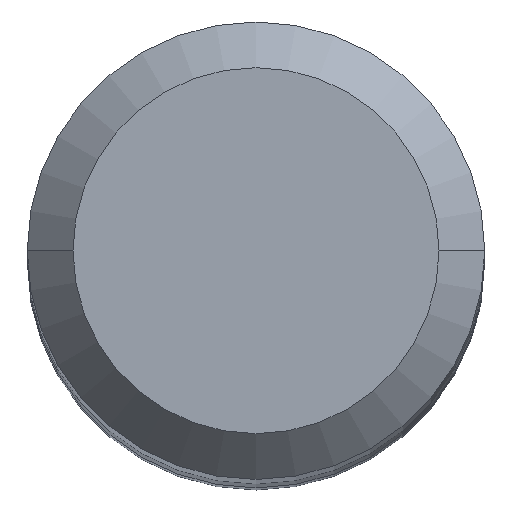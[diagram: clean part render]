
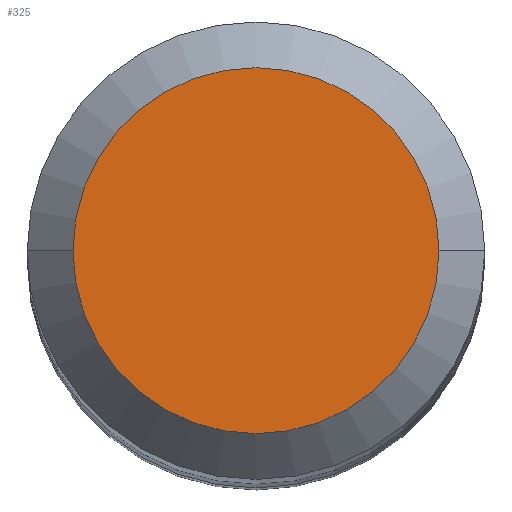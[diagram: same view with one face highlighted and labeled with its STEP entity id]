
A CAD part, top view. The second image highlights one B-rep face of the part: STEP entity #325.
In plain terms, the highlighted planar face has unit normal (0, 0, 1).
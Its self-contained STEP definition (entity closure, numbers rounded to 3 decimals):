
#1 = DIRECTION ( 'NONE',  ( -1., 0., 0. ) ) ;
#5 = ORIENTED_EDGE ( 'NONE', *, *, #430, .F. ) ;
#41 = AXIS2_PLACEMENT_3D ( 'NONE', #146, #283, #1 ) ;
#46 = DIRECTION ( 'NONE',  ( 0., 0., -1. ) ) ;
#89 = CARTESIAN_POINT ( 'NONE',  ( -3.2, 0., 0. ) ) ;
#94 = DIRECTION ( 'NONE',  ( -1., 0., 0. ) ) ;
#119 = EDGE_LOOP ( 'NONE', ( #5, #301 ) ) ;
#146 = CARTESIAN_POINT ( 'NONE',  ( 0., 0., 0. ) ) ;
#158 = VERTEX_POINT ( 'NONE', #89 ) ;
#163 = AXIS2_PLACEMENT_3D ( 'NONE', #419, #46, #94 ) ;
#179 = FACE_OUTER_BOUND ( 'NONE', #119, .T. ) ;
#219 = CIRCLE ( 'NONE', #41, 3.2 ) ;
#268 = DIRECTION ( 'NONE',  ( 0., 0., 1. ) ) ;
#283 = DIRECTION ( 'NONE',  ( 0., 0., -1. ) ) ;
#301 = ORIENTED_EDGE ( 'NONE', *, *, #307, .F. ) ;
#307 = EDGE_CURVE ( 'NONE', #476, #158, #442, .T. ) ;
#325 = ADVANCED_FACE ( 'NONE', ( #179 ), #558, .T. ) ;
#380 = CARTESIAN_POINT ( 'NONE',  ( 0., 3.2, 0. ) ) ;
#417 = AXIS2_PLACEMENT_3D ( 'NONE', #380, #268, #471 ) ;
#419 = CARTESIAN_POINT ( 'NONE',  ( 0., 0., 0. ) ) ;
#430 = EDGE_CURVE ( 'NONE', #158, #476, #219, .T. ) ;
#440 = CARTESIAN_POINT ( 'NONE',  ( 3.2, 0., 0. ) ) ;
#442 = CIRCLE ( 'NONE', #163, 3.2 ) ;
#471 = DIRECTION ( 'NONE',  ( 1., 0., 0. ) ) ;
#476 = VERTEX_POINT ( 'NONE', #440 ) ;
#558 = PLANE ( 'NONE',  #417 ) ;
